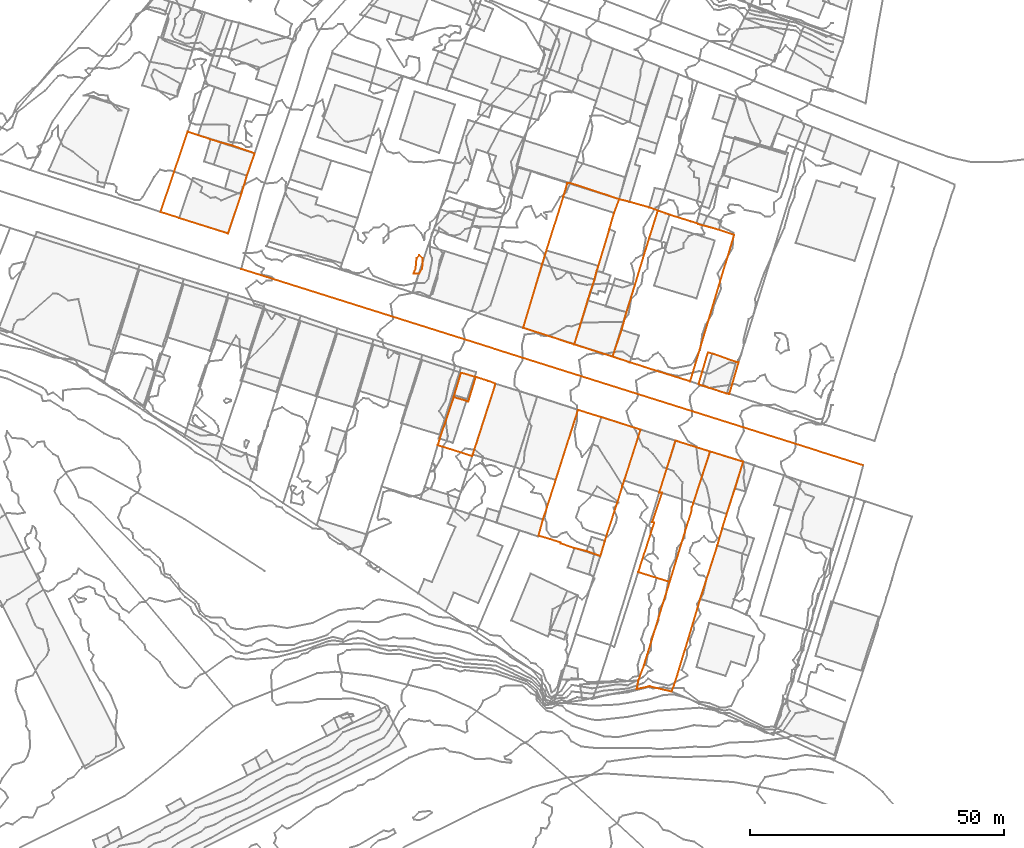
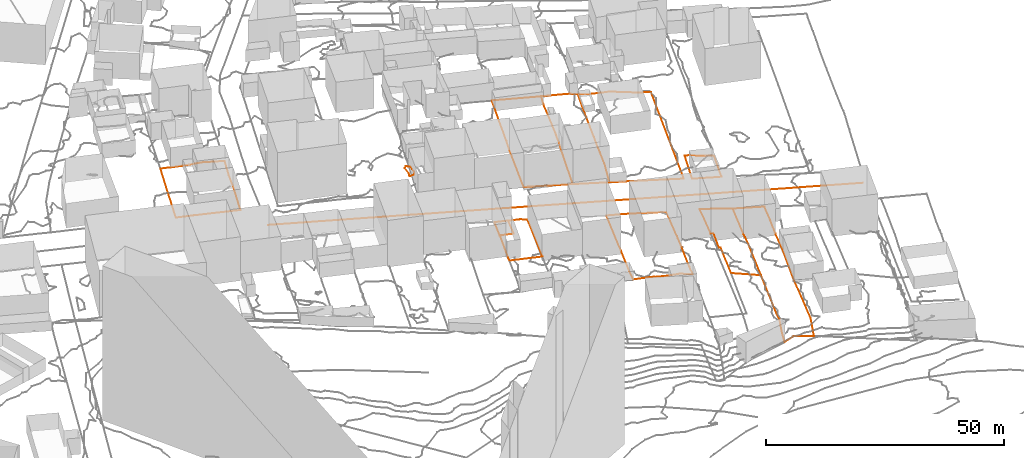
# Not in any storey, part 197 of 419: 12 proxies.
"""IFC2X3 model written with IfcOpenShell, lengths in metres."""

from ifc_helpers import new_model, entity, si_unit, frame, origin_with_axes, place, context, subcontext, project, element, save


model = new_model("IFC2X3")

# Units and contexts
model_context = context("Model", 3, precision=1e-05, world=origin_with_axes())
body_context = subcontext(model_context, "Body", "Model", "MODEL_VIEW")
ifc_project = project(units=[si_unit("AREAUNIT", "SQUARE_METRE"), si_unit("LENGTHUNIT", "METRE")], contexts=[model_context])

# Proxies
proxy_1_placement = place(None, frame((860.0920204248, 156.7976909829, 75.8), z_axis=(0.0, 0.0, 1.0), x_axis=(1.0, 0.0, 0.0)))
element("IfcBuildingElementProxy", 1, at=proxy_1_placement, Name="Route 130", ObjectType="NOTDEFINED", context=body_context, shape_type="GeometricCurveSet", body=[
    entity("IfcGeometricCurveSet", [entity("IfcPolyline", [entity("IfcCartesianPoint", [122.3, -38.6000000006, -8.6]), entity("IfcCartesianPoint", [0.0, 0.0, 0.0])])]),
])
proxy_2_placement = place(None, frame((844.2020204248, 167.9876909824, 76.4375950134), z_axis=(0.0, 0.0, 1.0), x_axis=(1.0, 0.0, 0.0)))
element("IfcBuildingElementProxy", 2, at=proxy_2_placement, Name="Cadastre 130", ObjectType="NOTDEFINED", context=body_context, shape_type="GeometricCurveSet", body=[
    entity("IfcGeometricCurveSet", [entity("IfcPolyline", [entity("IfcCartesianPoint", [18.53, 11.54, 1.0690278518]), entity("IfcCartesianPoint", [16.98, 7.1400000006, 0.6153312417]), entity("IfcCartesianPoint", [15.9, 3.54, 0.4689794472]), entity("IfcCartesianPoint", [13.26, -4.2199999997, -0.1154484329]), entity("IfcCartesianPoint", [3.7200000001, -1.1799999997, 0.0194071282]), entity("IfcCartesianPoint", [0.0, 0.0, 0.0]), entity("IfcCartesianPoint", [5.36, 15.7800000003, 1.1482698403]), entity("IfcCartesianPoint", [7.42, 15.1000000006, 1.1622415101]), entity("IfcCartesianPoint", [9.89, 14.29, 1.1884032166]), entity("IfcCartesianPoint", [11.89, 13.6400000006, 1.338053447]), entity("IfcCartesianPoint", [14.12, 13.0700000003, 1.3542972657]), entity("IfcCartesianPoint", [18.53, 11.54, 1.0690278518])])]),
])
proxy_3_placement = place(None, frame((915.5120204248, 145.2276909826, 73.1338826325), z_axis=(0.0, 0.0, 1.0), x_axis=(1.0, 0.0, 0.0)))
element("IfcBuildingElementProxy", 3, at=proxy_3_placement, Name="Cadastre 152", ObjectType="NOTDEFINED", context=body_context, shape_type="GeometricCurveSet", body=[
    entity("IfcGeometricCurveSet", [entity("IfcPolyline", [entity("IfcCartesianPoint", [8.6899999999, 28.4699999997, 1.845448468]), entity("IfcCartesianPoint", [9.1699999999, 28.5, 1.7785187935]), entity("IfcCartesianPoint", [18.9, 25.2800000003, 1.3469125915]), entity("IfcCartesianPoint", [17.85, 22.5800000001, 1.1933891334]), entity("IfcCartesianPoint", [16.9399999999, 19.3200000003, 1.2123851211]), entity("IfcCartesianPoint", [14.7899999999, 12.1299999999, 1.2410307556]), entity("IfcCartesianPoint", [14.4299999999, 11.1399999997, 1.1190186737]), entity("IfcCartesianPoint", [14.03, 9.4800000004, 0.9167634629]), entity("IfcCartesianPoint", [13.16, 6.9299999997, 0.6055554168]), entity("IfcCartesianPoint", [12.6799999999, 5.3399999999, 0.4015772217]), entity("IfcCartesianPoint", [10.0499999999, -3.2699999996, -0.7895196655]), entity("IfcCartesianPoint", [0.0, 0.0, 0.0]), entity("IfcCartesianPoint", [3.74, 12.5099999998, 0.7200719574]), entity("IfcCartesianPoint", [4.5699999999, 15.1600000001, 0.9994116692]), entity("IfcCartesianPoint", [7.89, 25.7300000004, 1.637789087]), entity("IfcCartesianPoint", [8.6899999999, 28.4699999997, 1.845448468])])]),
])
proxy_4_placement = place(None, frame((933.1020204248, 139.5476909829, 71.6317506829), z_axis=(0.0, 0.0, 1.0), x_axis=(1.0, 0.0, 0.0)))
element("IfcBuildingElementProxy", 4, at=proxy_4_placement, Name="Cadastre 155", ObjectType="NOTDEFINED", context=body_context, shape_type="GeometricCurveSet", body=[
    entity("IfcGeometricCurveSet", [entity("IfcPolyline", [entity("IfcCartesianPoint", [0.0, 0.0, 0.0]), entity("IfcCartesianPoint", [1.78, 5.2799999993, 1.0677258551]), entity("IfcCartesianPoint", [2.72, 8.7299999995, 1.3428866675]), entity("IfcCartesianPoint", [4.41, 14.1799999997, 1.48260185]), entity("IfcCartesianPoint", [7.17, 23.2599999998, 1.7737609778]), entity("IfcCartesianPoint", [7.4400000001, 24.0699999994, 1.6862973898]), entity("IfcCartesianPoint", [8.89, 28.71, 2.0783674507]), entity("IfcCartesianPoint", [10.47, 28.1799999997, 1.8587157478]), entity("IfcCartesianPoint", [11.22, 27.8999999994, 1.8324338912]), entity("IfcCartesianPoint", [15.42, 26.5899999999, 1.7735241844]), entity("IfcCartesianPoint", [16.51, 26.2599999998, 1.6467030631]), entity("IfcCartesianPoint", [16.84, 26.0599999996, 1.4806439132]), entity("IfcCartesianPoint", [20.88, 24.9500000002, 0.6369881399]), entity("IfcCartesianPoint", [23.89, 23.9399999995, 0.246426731]), entity("IfcCartesianPoint", [15.24, -4.8500000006, -1.4494993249]), entity("IfcCartesianPoint", [3.41, -1.1299999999, -0.2619742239]), entity("IfcCartesianPoint", [0.0, 0.0, 0.0])])]),
])
proxy_5_placement = place(None, frame((925.5620204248, 141.9576909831, 72.344362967), z_axis=(0.0, 0.0, 1.0), x_axis=(1.0, 0.0, 0.0)))
element("IfcBuildingElementProxy", 5, at=proxy_5_placement, Name="Cadastre 157", ObjectType="NOTDEFINED", context=body_context, shape_type="GeometricCurveSet", body=[
    entity("IfcGeometricCurveSet", [entity("IfcPolyline", [entity("IfcCartesianPoint", [8.8500000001, 28.5499999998, 2.136432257]), entity("IfcCartesianPoint", [10.8300000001, 28.0599999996, 1.9702354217]), entity("IfcCartesianPoint", [14.7300000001, 26.9499999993, 1.7172046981]), entity("IfcCartesianPoint", [16.4300000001, 26.2999999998, 1.3657551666]), entity("IfcCartesianPoint", [14.9800000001, 21.6599999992, 0.9736851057]), entity("IfcCartesianPoint", [14.7100000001, 20.8499999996, 1.0611486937]), entity("IfcCartesianPoint", [11.9500000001, 11.7699999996, 0.769989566]), entity("IfcCartesianPoint", [10.26, 6.3199999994, 0.6302743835]), entity("IfcCartesianPoint", [9.3200000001, 2.8699999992, 0.3551135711]), entity("IfcCartesianPoint", [7.54, -2.4100000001, -0.7126122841]), entity("IfcCartesianPoint", [0.0, 0.0, 0.0]), entity("IfcCartesianPoint", [2.63, 8.6099999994, 1.1910968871]), entity("IfcCartesianPoint", [3.1100000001, 10.1999999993, 1.3950750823]), entity("IfcCartesianPoint", [3.9800000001, 12.75, 1.7062831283]), entity("IfcCartesianPoint", [4.38, 14.4099999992, 1.9085383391]), entity("IfcCartesianPoint", [4.74, 15.3999999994, 2.0305504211]), entity("IfcCartesianPoint", [6.89, 22.5899999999, 2.0019047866]), entity("IfcCartesianPoint", [7.8, 25.8499999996, 1.9829087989]), entity("IfcCartesianPoint", [8.8500000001, 28.5499999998, 2.136432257])])]),
])
proxy_6_placement = place(None, frame((901.8620204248, 131.587690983, 73.7824873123), z_axis=(0.0, 0.0, 1.0), x_axis=(1.0, 0.0, 0.0)))
element("IfcBuildingElementProxy", 6, at=proxy_6_placement, Name="Cadastre 199", ObjectType="NOTDEFINED", context=body_context, shape_type="GeometricCurveSet", body=[
    entity("IfcGeometricCurveSet", [entity("IfcPolyline", [entity("IfcCartesianPoint", [1.45, 4.79, -0.0157439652]), entity("IfcCartesianPoint", [4.3199999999, 3.9499999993, -0.1271458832]), entity("IfcCartesianPoint", [2.87, -0.8600000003, -0.0510098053]), entity("IfcCartesianPoint", [0.0, 0.0, 0.0]), entity("IfcCartesianPoint", [1.45, 4.79, -0.0157439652])])]),
])
proxy_7_placement = place(None, frame((898.7320204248, 122.1376909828, 74.1319120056), z_axis=(0.0, 0.0, 1.0), x_axis=(1.0, 0.0, 0.0)))
element("IfcBuildingElementProxy", 7, at=proxy_7_placement, Name="Cadastre 200", ObjectType="NOTDEFINED", context=body_context, shape_type="GeometricCurveSet", body=[
    entity("IfcGeometricCurveSet", [entity("IfcPolyline", [entity("IfcCartesianPoint", [0.0, 0.0, 0.0]), entity("IfcCartesianPoint", [0.12, 0.3899999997, -0.0183420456]), entity("IfcCartesianPoint", [0.33, 1.0999999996, -0.0037925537]), entity("IfcCartesianPoint", [2.99, 8.96, -0.3523323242]), entity("IfcCartesianPoint", [3.13, 9.4500000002, -0.3494246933]), entity("IfcCartesianPoint", [6.0, 8.5899999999, -0.4004344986]), entity("IfcCartesianPoint", [7.45, 13.3999999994, -0.4765705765]), entity("IfcCartesianPoint", [7.59, 13.3600000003, -0.4804105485]), entity("IfcCartesianPoint", [9.9400000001, 12.6600000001, -0.5620742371]), entity("IfcCartesianPoint", [11.3199999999, 12.0999999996, -0.7464421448]), entity("IfcCartesianPoint", [10.96, 10.8399999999, -0.6896303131]), entity("IfcCartesianPoint", [6.87, -1.8700000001, -0.0113147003]), entity("IfcCartesianPoint", [6.78, -2.1500000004, -0.0216702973]), entity("IfcCartesianPoint", [0.0, 0.0, 0.0])])]),
])
proxy_8_placement = place(None, frame((918.5420204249, 104.3476909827, 73.1479491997), z_axis=(0.0, 0.0, 1.0), x_axis=(1.0, 0.0, 0.0)))
element("IfcBuildingElementProxy", 8, at=proxy_8_placement, Name="Cadastre 204", ObjectType="NOTDEFINED", context=body_context, shape_type="GeometricCurveSet", body=[
    entity("IfcGeometricCurveSet", [entity("IfcPolyline", [entity("IfcCartesianPoint", [0.0, 0.0, 0.0]), entity("IfcCartesianPoint", [0.85, 3.1399999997, -0.1133472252]), entity("IfcCartesianPoint", [3.37, 10.9299999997, -0.5953237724]), entity("IfcCartesianPoint", [7.75, 24.7299999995, -1.2981094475]), entity("IfcCartesianPoint", [12.3099999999, 23.3200000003, -1.5782565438]), entity("IfcCartesianPoint", [20.0599999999, 20.8399999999, -2.3367416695]), entity("IfcCartesianPoint", [16.8199999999, 10.7999999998, -1.2551506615]), entity("IfcCartesianPoint", [16.48, 9.7999999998, -1.150250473]), entity("IfcCartesianPoint", [15.47, 6.4699999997, -1.0650007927]), entity("IfcCartesianPoint", [13.0199999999, -1.0700000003, -0.7234857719]), entity("IfcCartesianPoint", [12.1499999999, -4.0099999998, -0.468291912]), entity("IfcCartesianPoint", [9.49, -3.0499999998, -0.012508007]), entity("IfcCartesianPoint", [7.0199999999, -2.4199999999, -0.0095368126]), entity("IfcCartesianPoint", [4.37, -1.5200000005, 0.0148060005]), entity("IfcCartesianPoint", [4.37, -1.3200000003, 0.0160857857]), entity("IfcCartesianPoint", [0.0, 0.0, 0.0])])]),
])
proxy_9_placement = place(None, frame((938.1520204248, 97.1776909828, 72.2446628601), z_axis=(0.0, 0.0, 1.0), x_axis=(1.0, 0.0, 0.0)))
element("IfcBuildingElementProxy", 9, at=proxy_9_placement, Name="Cadastre 209", ObjectType="NOTDEFINED", context=body_context, shape_type="GeometricCurveSet", body=[
    entity("IfcGeometricCurveSet", [entity("IfcPolyline", [entity("IfcCartesianPoint", [0.0, 0.0, 0.0]), entity("IfcCartesianPoint", [3.13, 9.7699999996, -0.4588742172]), entity("IfcCartesianPoint", [2.75, 9.8799999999, -0.4365719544]), entity("IfcCartesianPoint", [4.7, 15.6200000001, -0.7785817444]), entity("IfcCartesianPoint", [4.12, 15.6699999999, -0.7613221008]), entity("IfcCartesianPoint", [7.2999999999, 25.8599999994, -1.7638620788]), entity("IfcCartesianPoint", [14.1, 23.7199999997, -2.7471648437]), entity("IfcCartesianPoint", [10.8199999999, 13.6099999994, -1.8557643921]), entity("IfcCartesianPoint", [10.5299999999, 12.6899999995, -1.803449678]), entity("IfcCartesianPoint", [10.52, 12.25, -1.7992438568]), entity("IfcCartesianPoint", [6.1599999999, -1.9100000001, -1.5471305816]), entity("IfcCartesianPoint", [0.0, 0.0, 0.0])])]),
])
proxy_10_placement = place(None, frame((950.0120204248, 134.127690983, 69.9681631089), z_axis=(0.0, 0.0, 1.0), x_axis=(1.0, 0.0, 0.0)))
element("IfcBuildingElementProxy", 10, at=proxy_10_placement, Name="Cadastre 210", ObjectType="NOTDEFINED", context=body_context, shape_type="GeometricCurveSet", body=[
    entity("IfcGeometricCurveSet", [entity("IfcPolyline", [entity("IfcCartesianPoint", [7.88, 4.3300000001, 0.4085378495]), entity("IfcCartesianPoint", [6.03, -1.8799999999, -0.4698375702]), entity("IfcCartesianPoint", [5.5499999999, -1.8300000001, -0.4339804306]), entity("IfcCartesianPoint", [0.75, -0.3000000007, -0.0578604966]), entity("IfcCartesianPoint", [0.0, 0.0, 0.0]), entity("IfcCartesianPoint", [1.84, 6.2799999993, 1.3821613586]), entity("IfcCartesianPoint", [2.64, 6.0199999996, 1.4125862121]), entity("IfcCartesianPoint", [7.4, 4.4099999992, 0.6059583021]), entity("IfcCartesianPoint", [7.88, 4.3300000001, 0.4085378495])])]),
])
proxy_11_placement = place(None, frame((937.8720204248, 74.2076909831, 68.6106867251), z_axis=(0.0, 0.0, 1.0), x_axis=(1.0, 0.0, 0.0)))
element("IfcBuildingElementProxy", 11, at=proxy_11_placement, Name="Cadastre 211", ObjectType="NOTDEFINED", context=body_context, shape_type="GeometricCurveSet", body=[
    entity("IfcGeometricCurveSet", [entity("IfcPolyline", [entity("IfcCartesianPoint", [6.4399999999, 21.0599999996, 2.0868455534]), entity("IfcCartesianPoint", [10.8, 35.2199999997, 1.8347322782]), entity("IfcCartesianPoint", [10.8099999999, 35.6599999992, 1.830526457]), entity("IfcCartesianPoint", [11.1, 36.5799999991, 1.778211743]), entity("IfcCartesianPoint", [14.38, 46.6899999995, 0.8868112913]), entity("IfcCartesianPoint", [20.9, 44.6799999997, 0.3297208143]), entity("IfcCartesianPoint", [19.28, 39.4299999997, 0.6093130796]), entity("IfcCartesianPoint", [17.66, 34.4299999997, 0.7424575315]), entity("IfcCartesianPoint", [16.77, 31.5699999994, 1.0128121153]), entity("IfcCartesianPoint", [15.8199999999, 28.1999999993, 1.09652451]), entity("IfcCartesianPoint", [12.45, 17.6799999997, 0.9667834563]), entity("IfcCartesianPoint", [7.97, 2.8199999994, 1.6122874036]), entity("IfcCartesianPoint", [7.28, 0.8099999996, 0.4171874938]), entity("IfcCartesianPoint", [6.83, -0.5100000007, -0.5575845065]), entity("IfcCartesianPoint", [2.46, 0.54, 0.2676645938]), entity("IfcCartesianPoint", [0.0, 0.0, 0.0]), entity("IfcCartesianPoint", [0.28, 1.6999999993, 1.6354021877]), entity("IfcCartesianPoint", [1.3199999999, 4.4499999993, 2.6324748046]), entity("IfcCartesianPoint", [2.02, 6.71, 2.2518732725]), entity("IfcCartesianPoint", [6.4399999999, 21.0599999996, 2.0868455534])])]),
])
proxy_12_placement = place(None, frame((893.9381968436, 155.8976909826, 77.0), z_axis=(0.0, 0.0, 1.0), x_axis=(1.0, 0.0, 0.0)))
element("IfcBuildingElementProxy", 12, at=proxy_12_placement, Name="Contour 77.0 m", ObjectType="NOTDEFINED", context=body_context, shape_type="GeometricCurveSet", body=[
    entity("IfcGeometricCurveSet", [entity("IfcPolyline", [entity("IfcCartesianPoint", [1.1538269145, 0.0, 0.0]), entity("IfcCartesianPoint", [0.0, 0.0, 0.0]), entity("IfcCartesianPoint", [0.4296910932, 1.0, 0.0]), entity("IfcCartesianPoint", [0.6204834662, 3.0, 0.0]), entity("IfcCartesianPoint", [1.1538235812, 3.6153755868, 0.0]), entity("IfcCartesianPoint", [1.7691991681, 3.0, 0.0]), entity("IfcCartesianPoint", [1.833816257, 2.0, 0.0]), entity("IfcCartesianPoint", [1.7064567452, 1.0, 0.0]), entity("IfcCartesianPoint", [1.1538269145, 0.0, 0.0])])]),
])

save(model, "model.ifc")
